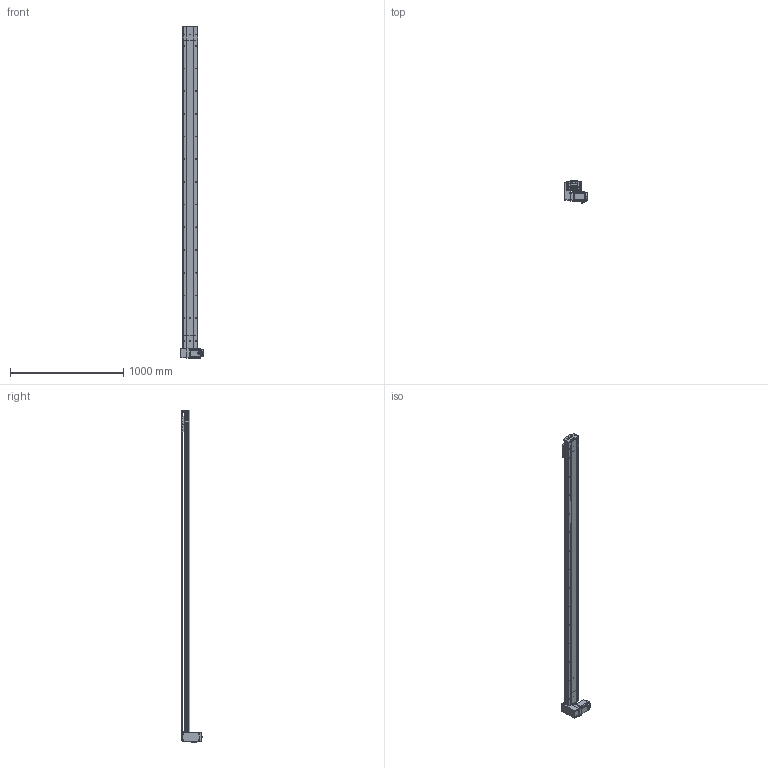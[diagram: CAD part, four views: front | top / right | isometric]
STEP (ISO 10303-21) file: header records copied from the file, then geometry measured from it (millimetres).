
FILE_DESCRIPTION (( 'STEP AP214' ), '1' );
FILE_NAME ('D14 TBH RU S2600.STEP', '2010-06-29T14:33:59', ( 'Conseil Régional Haute-Normandie' ), ( 'Conseil Régional Haute-Normandie' ), 'SwSTEP 2.0', 'SolidWorks 2010', '' );
FILE_SCHEMA (( 'AUTOMOTIVE_DESIGN' ));
Length unit declared in the file: millimetre
Products named in the file (39): Arbre+rail head D14; Conecteur_Default; Plaque racord D14_Default; Cache_Default; Cache arbre_Default; couvercle D14 course L2600_Default; Tail D14B_Default; corpl tail D14_Default; plaque de  bout head D14 RU_Default; plaque de  bout tail D14_Default; Arbre+rail tail D14; couvercle D14_Default; vis M5 L8 90°_Default; renvoi RH_Default; poulie tail_Default; vis M5 L5_Default; Couroie_Default; Vis M5 L16-2_Default; vis M5 L16_Default; D14 TB H RU_Default; Cvis M5 L70_Default; chariot D14B_Default; tete d''axe haut D14; poulie head_Default; couroie 2_Default; Chariot D14; corp head D14_Default; couvercle D14 head_Default; codeur 90BLDC100-640; Rail + couroie D14 Course 2600 ; Moteur motionking 90BLDC100A-640; avant 90BLDC100A-640; corps 90BLDC100A-640; D14 TBH RU S2600; D14 couroie L2600_Default; corpl 2600_Default; guide D14; vis M5 L12_Default; Conecteur2_Default
Assembly tree (68 placements, depth 4):
  D14 TBH RU S2600
    Tail D14B_Default
      couvercle D14_Default
      poulie tail_Default
      vis M5 L8 90°_Default  x2
      plaque de  bout tail D14_Default
      vis M5 L16_Default  x2
      vis M5 L12_Default  x4
      tete d''axe haut D14
      Couroie_Default
      corpl tail D14_Default
      Arbre+rail tail D14
    chariot D14B_Default
      vis M5 L12_Default  x4
      guide D14  x2
      Chariot D14
    D14 TB H RU_Default
      Vis M5 L16-2_Default  x4
      poulie head_Default
      vis M5 L12_Default  x12
      vis M5 L5_Default  x2
      Cvis M5 L70_Default  x4
      couroie 2_Default
      Plaque racord D14_Default
      renvoi RH_Default
      Arbre+rail head D14
      Moteur motionking 90BLDC100A-640
        codeur 90BLDC100-640
        avant 90BLDC100A-640
        corps 90BLDC100A-640
        Conecteur_Default
        Conecteur2_Default
      Cache arbre_Default
      Cache_Default  x2
      corp head D14_Default
      plaque de  bout head D14 RU_Default
      couvercle D14 head_Default
    D14 couroie L2600_Default
      Rail + couroie D14 Course 2600 
      corpl 2600_Default
      couvercle D14 course L2600_Default
Bounding box: 207.2 x 191.1 x 2925.75 mm (x, y, z)
Volume: 10946603.2 mm3; surface area: 3958260.3 mm2
Topology: 92 solids, 92 shells, 2741 faces, 6683 edges, 4314 vertices
Faces by surface type: plane 1617, cylinder 811, bspline 136, torus 89, cone 84, sphere 4
Entity records: 82448 total; most frequent: CARTESIAN_POINT 24077, ORIENTED_EDGE 10226, DIRECTION 10140, EDGE_CURVE 5113, AXIS2_PLACEMENT_3D 3391, VERTEX_POINT 3364, VECTOR 3358, LINE 3358
